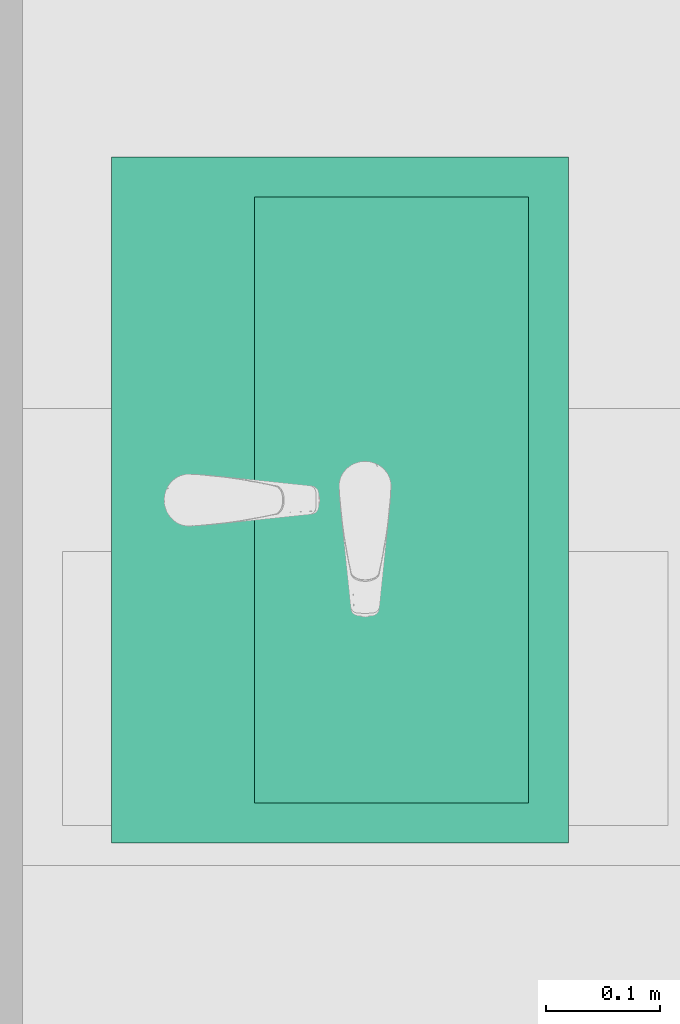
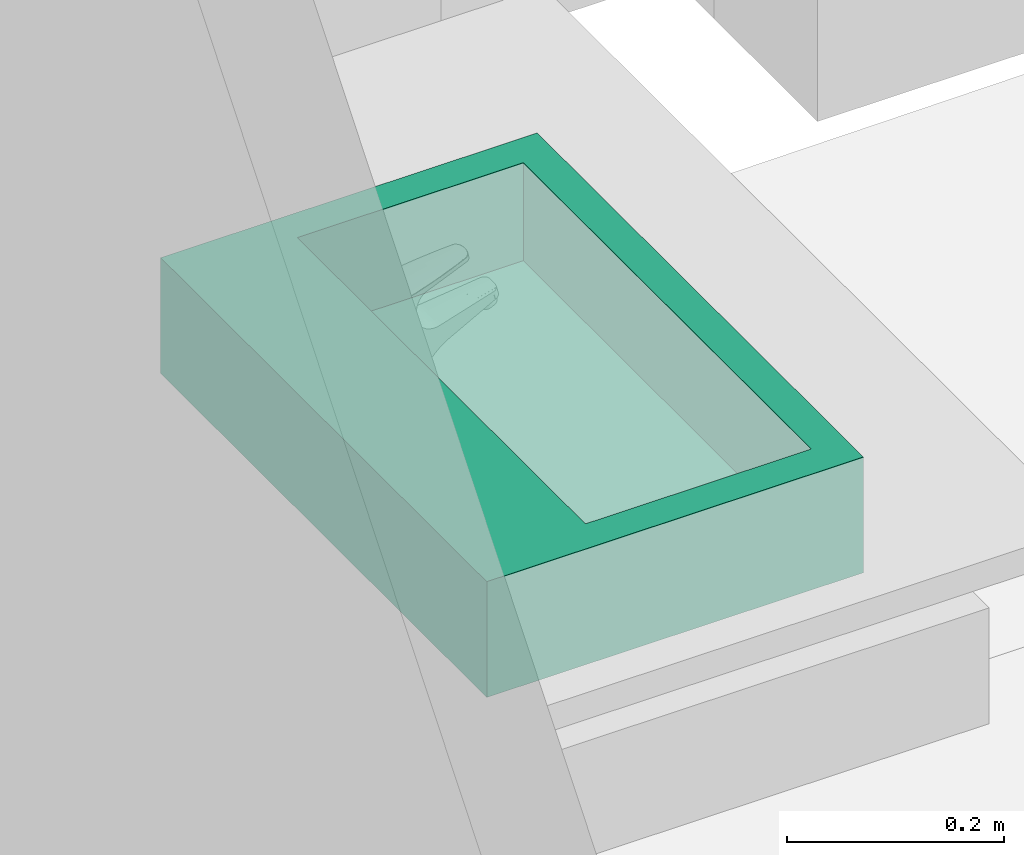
# One storey, part 26 of 57: 1 flow terminal.
"""IFC2X3 building model written with IfcOpenShell, lengths in millimetres."""

from ifc_helpers import new_model, entity, si_unit, converted_unit, direction, frame, origin, place, context, subcontext, project, spatial, faceted_brep, source, transform, mapped, material, type_object, type_shapes, element, save


model = new_model("IFC2X3")

# Units and contexts
model_context = context("Model", 3, precision=0.01, world=origin(), true_north=direction((6.123233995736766e-17, 1.0)))
plan_context = context("Plan", 3, precision=0.01, world=origin(), true_north=direction((6.123233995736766e-17, 1.0)))
body_context = subcontext(model_context, "Body", "Model", "MODEL_VIEW")
ifc_project = project(units=[si_unit("LENGTHUNIT", "METRE", prefix="MILLI"), converted_unit("PLANEANGLEUNIT", "DEGREE", entity("IfcPlaneAngleMeasure", 0.017453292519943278), si_unit("PLANEANGLEUNIT", "RADIAN"), dimensions=[0, 0, 0, 0, 0, 0, 0]), si_unit("AREAUNIT", "SQUARE_METRE")], contexts=[model_context, plan_context])

# Site, building, storey, space
site_placement = place(None, origin())
site = spatial("IfcSite", under=ifc_project, at=site_placement, Name="Default", CompositionType="ELEMENT")
building_placement = place(site_placement, origin())
building = spatial("IfcBuilding", under=site, at=building_placement, CompositionType="ELEMENT")
storey_placement = place(building_placement, frame((0.0, 0.0, 12811.000000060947)))
storey = spatial("IfcBuildingStorey", under=building, at=storey_placement, Name="5K", CompositionType="ELEMENT", Elevation=12811.000000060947)
space_placement = place(storey_placement, origin())
space = spatial("IfcSpace", under=storey, at=space_placement, Name="5-12.11", CompositionType="ELEMENT", InteriorOrExteriorSpace="INTERNAL")

# Flow terminal
ifc_material = material(Name="<Unnamed>")
distribution_element_type = type_object("IfcDistributionElementType", Name="HR_Plumbing-fixtures_Sink_Generic_Bathroom_v1:600 x 400 mm", material=ifc_material)
shared_shape = source(origin(), body_context, "Body", "Brep", [
    faceted_brep([(300.0, 0.0, 0.0), (-300.0, 0.0, 0.0), (-300.0, -400.0, 0.0), (300.0, -400.0, 0.0), (-265.0, -125.0, 0.0), (265.0, -125.0, 0.0), (265.0, -365.0, 0.0), (-265.0, -365.0, 0.0), (300.0, 0.0, -130.0), (300.0, -400.0, -130.0), (-300.0, -400.0, -130.0), (-300.0, 0.0, -130.0), (265.0, -125.0, -110.0), (-265.0, -125.0, -110.0), (-265.0, -365.0, -110.0), (265.0, -365.0, -110.0)], [[[0, 1, 2, 3], [4, 5, 6, 7]], [[8, 9, 10, 11]], [[1, 0, 8, 11]], [[2, 1, 11, 10]], [[3, 2, 10, 9]], [[0, 3, 9, 8]], [[12, 13, 14, 15]], [[13, 12, 5, 4]], [[14, 13, 4, 7]], [[15, 14, 7, 6]], [[12, 15, 6, 5]]]),
])
type_shapes(distribution_element_type, [shared_shape])
flow_terminal_placement = place(space_placement, frame((3350.0, 14100.0, 900.0), z_axis=(0.0, 0.0, 1.0), x_axis=(0.0, 1.0, 0.0)))
element("IfcFlowTerminal", 1, at=flow_terminal_placement, inside=space, type_object=distribution_element_type, material=ifc_material, Name="HR_Plumbing-fixtures_Sink_Generic_Bathroom_v1:600 x 400 mm", ObjectType="HR_Plumbing-fixtures_Sink_Generic_Bathroom_v1:600 x 400 mm", context=body_context, shape_type="MappedRepresentation", body=[
    mapped(shared_shape, transform((0.0, 0.0, 0.0), scale=1.0)),
])

save(model, "model.ifc")
